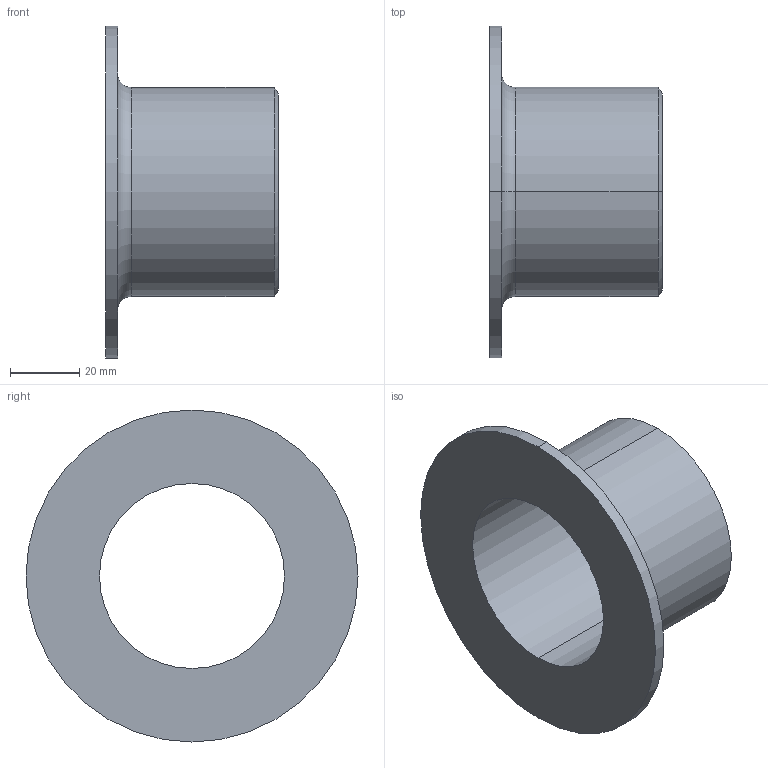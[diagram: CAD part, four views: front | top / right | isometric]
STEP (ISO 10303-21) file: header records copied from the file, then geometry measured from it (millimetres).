
FILE_DESCRIPTION (( 'STEP AP214' ), '1' );
FILE_NAME ('Stub-end-Sch20S-10K-50A.STEP', '2022-06-28T05:31:08', ( 'ASIS User' ), ( 'ASIS User' ), 'SwSTEP 2.0', 'SolidWorks 2022', '' );
FILE_SCHEMA (( 'AUTOMOTIVE_DESIGN' ));
Length unit declared in the file: millimetre
Products named in the file (1): Stub-end-Sch20S-10K-50A
Bounding box: 50 x 96 x 96 mm (x, y, z)
Volume: 47067.5 mm3; surface area: 27793.6 mm2
Topology: 1 solids, 1 shells, 13 faces, 26 edges, 16 vertices
Faces by surface type: cylinder 6, plane 3, cone 2, torus 2
Entity records: 384 total; most frequent: DIRECTION 72, CARTESIAN_POINT 56, ORIENTED_EDGE 52, AXIS2_PLACEMENT_3D 32, EDGE_CURVE 26, CIRCLE 18, EDGE_LOOP 16, VERTEX_POINT 16
